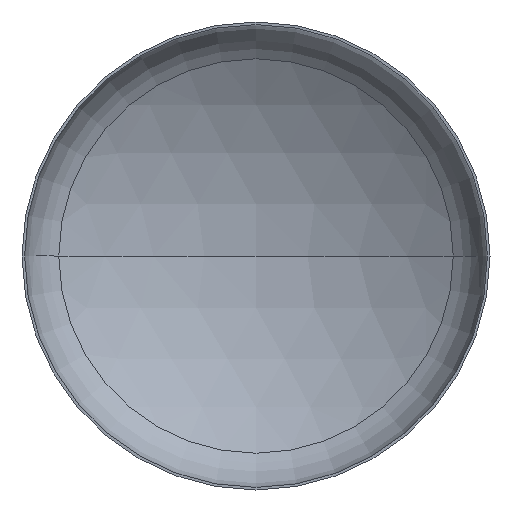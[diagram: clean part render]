
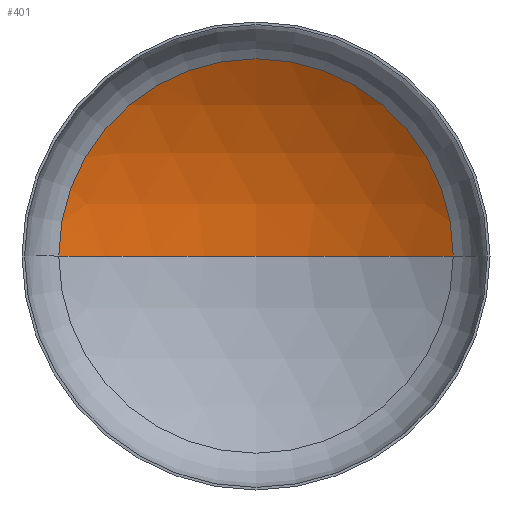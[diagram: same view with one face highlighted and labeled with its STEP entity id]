
A CAD part, front view. The second image highlights one B-rep face of the part: STEP entity #401.
In plain terms, the highlighted spherical face has radius 2720 mm.
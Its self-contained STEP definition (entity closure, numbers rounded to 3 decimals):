
#2 = DIRECTION ( 'NONE',  ( -1., 0., 0. ) ) ;
#12 = AXIS2_PLACEMENT_3D ( 'NONE', #183, #368, #239 ) ;
#14 = AXIS2_PLACEMENT_3D ( 'NONE', #395, #245, #2 ) ;
#20 = AXIS2_PLACEMENT_3D ( 'NONE', #184, #369, #157 ) ;
#29 = ORIENTED_EDGE ( 'NONE', *, *, #341, .T. ) ;
#50 = CARTESIAN_POINT ( 'NONE',  ( 0., 914.072, 0. ) ) ;
#63 = CARTESIAN_POINT ( 'NONE',  ( -1432.492, 506.293, 0. ) ) ;
#72 = VERTEX_POINT ( 'NONE', #50 ) ;
#73 = CIRCLE ( 'NONE', #14, 2720. ) ;
#93 = CIRCLE ( 'NONE', #20, 1432.492 ) ;
#136 = SPHERICAL_SURFACE ( 'NONE', #177, 2720. ) ;
#151 = EDGE_LOOP ( 'NONE', ( #197, #29, #193 ) ) ;
#157 = DIRECTION ( 'NONE',  ( 1., 0., 0. ) ) ;
#177 = AXIS2_PLACEMENT_3D ( 'NONE', #247, #398, #336 ) ;
#183 = CARTESIAN_POINT ( 'NONE',  ( 0., -1805.928, 0. ) ) ;
#184 = CARTESIAN_POINT ( 'NONE',  ( 0., 506.293, 0. ) ) ;
#193 = ORIENTED_EDGE ( 'NONE', *, *, #339, .T. ) ;
#197 = ORIENTED_EDGE ( 'NONE', *, *, #344, .F. ) ;
#199 = VERTEX_POINT ( 'NONE', #289 ) ;
#211 = VERTEX_POINT ( 'NONE', #63 ) ;
#239 = DIRECTION ( 'NONE',  ( 1., 0., 0. ) ) ;
#245 = DIRECTION ( 'NONE',  ( 0., 0., -1. ) ) ;
#247 = CARTESIAN_POINT ( 'NONE',  ( 0., -1805.928, 0. ) ) ;
#281 = FACE_OUTER_BOUND ( 'NONE', #151, .T. ) ;
#289 = CARTESIAN_POINT ( 'NONE',  ( 1432.492, 506.293, 0. ) ) ;
#306 = CIRCLE ( 'NONE', #12, 2720. ) ;
#336 = DIRECTION ( 'NONE',  ( -1., 0., 0. ) ) ;
#339 = EDGE_CURVE ( 'NONE', #199, #211, #93, .T. ) ;
#341 = EDGE_CURVE ( 'NONE', #72, #199, #73, .T. ) ;
#344 = EDGE_CURVE ( 'NONE', #72, #211, #306, .T. ) ;
#368 = DIRECTION ( 'NONE',  ( 0., 0., 1. ) ) ;
#369 = DIRECTION ( 'NONE',  ( 0., -1., 0. ) ) ;
#395 = CARTESIAN_POINT ( 'NONE',  ( 0., -1805.928, 0. ) ) ;
#398 = DIRECTION ( 'NONE',  ( 0., 0., -1. ) ) ;
#401 = ADVANCED_FACE ( 'NONE', ( #281 ), #136, .F. ) ;
